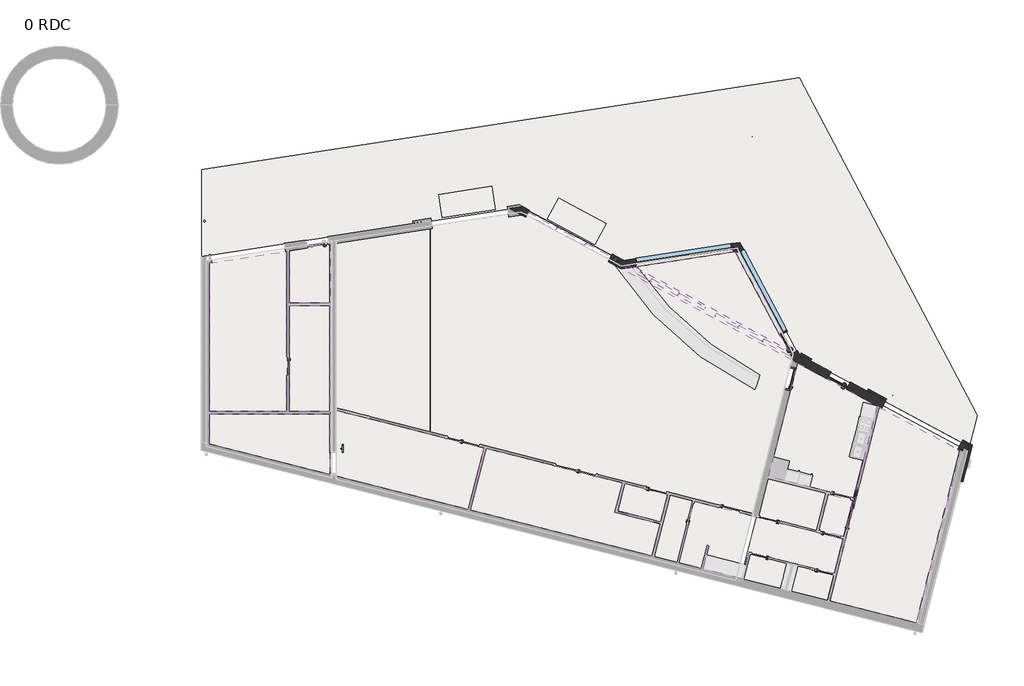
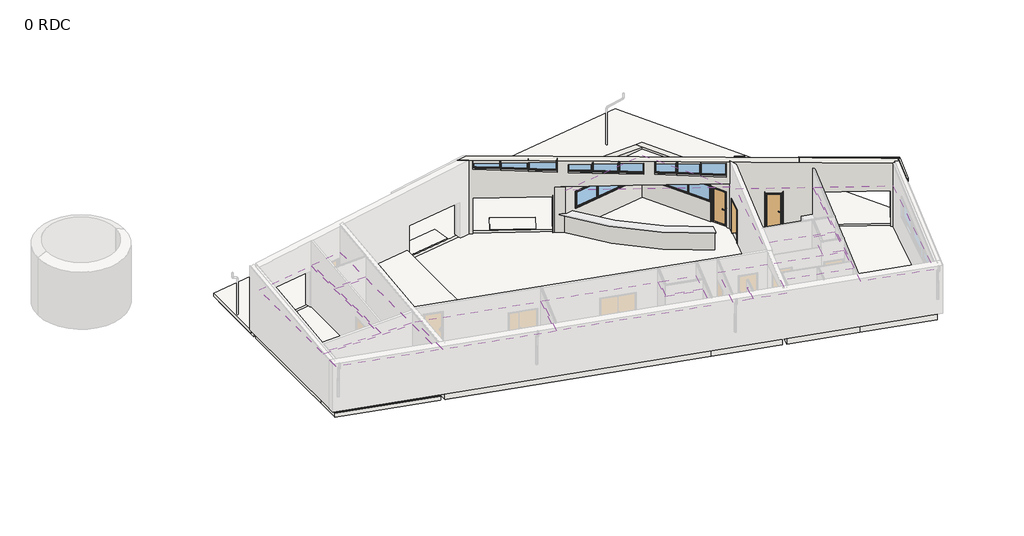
# One storey, part 3 of 4: 13 slabs, 12 coverings, 11 windows, 7 walls, 3 doors, 1 railing.
"""IFC4 building model written with IfcOpenShell, lengths in millimetres."""

from ifc_helpers import new_model, si_unit, point, frame, frame_2d, origin, place, context, project, spatial, polyline, circle_curve, trimmed, segment, composite_curve, outline, extrude, faceted_brep, transform, mapped, element, save
from components import door_be1b824a, int_simple_pp_0_93m_x_2_04m_1153bdb4, railing_3c3928af, window_9b9de55e, window_9c448f7a, fixed_trapezoidal_window_11265_81f1b40e, fixed_trapezoidal_window_11265_c27a5a7f, fixed_trapezoidal_window_11265_56658304, fixed_trapezoidal_window_11265_97f25e5e, fixed_trapezoidal_window_11265_f33cfe98, fixed_trapezoidal_window_11265_0d3202cf, fixed_trapezoidal_window_11265_bffe74e1, fixed_trapezoidal_window_11265_4c59b6dc, fixed_trapezoidal_window_11265_a913c717

model = new_model("IFC4")

# Units and contexts
model_context = context("Model", 3, world=origin())
ifc_project = project(units=[si_unit("LENGTHUNIT", "METRE", prefix="MILLI")], contexts=[model_context])

# Site, building, storey
site = spatial("IfcSite", under=ifc_project)
building = spatial("IfcBuilding", under=site)
storey = spatial("IfcBuildingStorey", under=building, Name="0 RDC", Elevation=870000.0)

# Coverings
placement = place(None, origin())
element("IfcCovering", 1, ObjectType="Plafond Placo non démontable", at=placement, inside=storey, context=model_context, shape_type="SweptSolid", body=[
    extrude(outline(polyline([(39030.2591474, -1188.091782), (38684.1366744, -2552.1774009), (30926.4820605, -589.8233287), (31594.2726668, 2041.9721585), (37412.8823258, 565.560754), (37092.6611617, -696.4465383), (39030.2591474, -1188.091782)])), frame((0.0, 0.0, 872515.0), z_axis=(0.0, 0.0, 1.0), x_axis=(1.0, 0.0, 0.0)), (0.0, 0.0, 1.0), 15.0),
    extrude(outline(polyline([(38684.1366744, -2552.1774009), (30926.4820605, -589.8233287), (31594.2726668, 2041.9721585), (37412.8823258, 565.560754), (37092.6611617, -696.4465383), (39030.2591474, -1188.091782), (38684.1366744, -2552.1774009)])), frame((0.0, 0.0, 872500.0), z_axis=(0.0, 0.0, 1.0), x_axis=(1.0, 0.0, 0.0)), (0.0, 0.0, 1.0), 15.0),
])
element("IfcCovering", 2, ObjectType="Plafond Rayonnant H Dalle 60 x 60", at=placement, inside=storey, context=model_context, shape_type="SweptSolid", body=[
    extrude(outline(polyline([(46449.2694121, -3383.1901153), (46179.0692598, -4448.0621495), (44432.0943018, -4006.1523722), (44702.6203023, -2939.9961538), (46449.2694121, -3383.1901153)])), frame((0.0, 0.0, 872506.5), z_axis=(0.0, 0.0, 1.0), x_axis=(1.0, 0.0, 0.0)), (0.0, 0.0, 1.0), 40.0),
    extrude(outline(polyline([(40413.7844589, -195.8868069), (39747.6391877, -2821.1979479), (38779.1441916, -2576.2102301), (39445.4701078, 49.8128421), (40413.7844589, -195.8868069)])), frame((0.0, 0.0, 872500.0), z_axis=(0.0, 0.0, 1.0), x_axis=(1.0, 0.0, 0.0)), (0.0, 0.0, 1.0), 6.5),
    extrude(outline(polyline([(42868.3913518, -2474.5797228), (44632.8318806, -2922.288071), (44361.9642795, -3989.7905539), (42597.5237507, -3542.0822057), (42868.3913518, -2474.5797228)])), frame((0.0, 0.0, 872506.5), z_axis=(0.0, 0.0, 1.0), x_axis=(1.0, 0.0, 0.0)), (0.0, 0.0, 1.0), 40.0),
    extrude(outline(polyline([(39445.4701078, 49.8128421), (40413.7844589, -195.8868069), (39747.6391877, -2821.1979479), (38779.1441916, -2576.2102301), (39445.4701078, 49.8128421)])), frame((0.0, 0.0, 872506.5), z_axis=(0.0, 0.0, 1.0), x_axis=(1.0, 0.0, 0.0)), (0.0, 0.0, 1.0), 40.0),
    extrude(outline(polyline([(44632.8318806, -2922.288071), (44361.9642795, -3989.7905539), (42597.5237507, -3542.0822057), (42868.3913518, -2474.5797228), (44632.8318806, -2922.288071)])), frame((0.0, 0.0, 872500.0), z_axis=(0.0, 0.0, 1.0), x_axis=(1.0, 0.0, 0.0)), (0.0, 0.0, 1.0), 6.5),
    extrude(outline(polyline([(46179.0692598, -4448.0621495), (44432.0943018, -4006.1523722), (44702.6203023, -2939.9961538), (46449.2694121, -3383.1901153), (46179.0692598, -4448.0621495)])), frame((0.0, 0.0, 872500.0), z_axis=(0.0, 0.0, 1.0), x_axis=(1.0, 0.0, 0.0)), (0.0, 0.0, 1.0), 6.5),
    extrude(outline(polyline([(46098.4873495, 113.4884436), (45698.5798126, -1462.5667464), (43230.4245873, -836.2981468), (43630.3321242, 739.7570432), (46098.4873495, 113.4884436)])), frame((0.0, 0.0, 872506.5), z_axis=(0.0, 0.0, 1.0), x_axis=(1.0, 0.0, 0.0)), (0.0, 0.0, 1.0), 40.0),
    extrude(outline(polyline([(39817.4406289, -2838.8547204), (40483.5728806, -213.5948897), (46844.0120914, -1827.4898817), (46466.9774949, -3313.4016936), (42816.3110129, -2387.0832183), (42527.7188828, -3524.4389379), (40856.7065307, -3101.7444436), (41104.7833717, -2124.0614625), (41034.99495, -2106.3533797), (40786.7242636, -3084.800315), (39817.4406289, -2838.8547204)])), frame((0.0, 0.0, 872506.5), z_axis=(0.0, 0.0, 1.0), x_axis=(1.0, 0.0, 0.0)), (0.0, 0.0, 1.0), 40.0),
    extrude(outline(polyline([(45698.5798126, -1462.5667464), (43230.4245873, -836.2981468), (43630.3321242, 739.7570432), (46098.4873495, 113.4884436), (45698.5798126, -1462.5667464)])), frame((0.0, 0.0, 872500.0), z_axis=(0.0, 0.0, 1.0), x_axis=(1.0, 0.0, 0.0)), (0.0, 0.0, 1.0), 6.5),
    extrude(outline(polyline([(40483.5728806, -213.5948897), (46844.0120914, -1827.4898817), (46466.9774949, -3313.4016936), (42816.3110129, -2387.0832183), (42527.7188828, -3524.4389379), (40856.7065307, -3101.7444436), (41104.7833717, -2124.0614625), (41034.99495, -2106.3533797), (40786.7242636, -3084.800315), (39817.4406289, -2838.8547204), (40483.5728806, -213.5948897)])), frame((0.0, 0.0, 872500.0), z_axis=(0.0, 0.0, 1.0), x_axis=(1.0, 0.0, 0.0)), (0.0, 0.0, 1.0), 6.5),
])
element("IfcCovering", 3, ObjectType="Plafond Dalle 60 x 60 \"Hygiène & Acoustique\"", at=placement, inside=storey, context=model_context, shape_type="SweptSolid", body=[
    extrude(outline(polyline([(43654.4347925, 834.7468394), (44884.524727, 5682.5915206), (48286.088666, 3855.804531), (47285.7303794, -86.6564737), (43654.4347925, 834.7468394)])), frame((0.0, 0.0, 872519.0), z_axis=(0.0, 0.0, 1.0), x_axis=(1.0, 0.0, 0.0)), (0.0, 0.0, 1.0), 1.0),
    extrude(outline(polyline([(43654.4347925, 834.7468394), (44884.524727, 5682.5915206), (48286.088666, 3855.804531), (47285.7303794, -86.6564737), (43654.4347925, 834.7468394)])), frame((0.0, 0.0, 872501.0), z_axis=(0.0, 0.0, 1.0), x_axis=(1.0, 0.0, 0.0)), (0.0, 0.0, 1.0), 18.0),
    extrude(outline(polyline([(44884.524727, 5682.5915206), (48286.088666, 3855.804531), (47285.7303794, -86.6564737), (43654.4347925, 834.7468394), (44884.524727, 5682.5915206)])), frame((0.0, 0.0, 872500.0), z_axis=(0.0, 0.0, 1.0), x_axis=(1.0, 0.0, 0.0)), (0.0, 0.0, 1.0), 1.0),
])
element("IfcCovering", 4, ObjectType="Plafond Rayonnant H Dalle 60 x 60", at=placement, inside=storey, context=model_context, shape_type="SweptSolid", body=[
    extrude(outline(polyline([(47261.6277111, -181.6462699), (46868.1147597, -1732.5000855), (45799.9641943, -1461.4680402), (46193.4771457, 89.3857753), (47261.6277111, -181.6462699)])), frame((0.0, 0.0, 872506.5), z_axis=(0.0, 0.0, 1.0), x_axis=(1.0, 0.0, 0.0)), (0.0, 0.0, 1.0), 40.0),
    extrude(outline(polyline([(46868.1147597, -1732.5000855), (45799.9641943, -1461.4680402), (46193.4771457, 89.3857753), (47261.6277111, -181.6462699), (46868.1147597, -1732.5000855)])), frame((0.0, 0.0, 872500.0), z_axis=(0.0, 0.0, 1.0), x_axis=(1.0, 0.0, 0.0)), (0.0, 0.0, 1.0), 6.5),
])
element("IfcCovering", 5, ObjectType="Plafond Placo non démontable", at=placement, inside=storey, context=model_context, shape_type="SweptSolid", body=[
    extrude(outline(polyline([(24925.5091129, 3610.3210603), (23184.6644129, 3610.3210603), (23184.6644129, 8145.3256655), (24925.5091129, 8145.3256655), (24925.5091129, 3610.3210603)])), frame((0.0, 0.0, 872515.0), z_axis=(0.0, 0.0, 1.0), x_axis=(1.0, 0.0, 0.0)), (0.0, 0.0, 1.0), 15.0),
    extrude(outline(polyline([(23184.6644129, 3610.3210603), (23184.6644129, 8145.3256655), (24925.5091129, 8145.3256655), (24925.5091129, 3610.3210603), (23184.6644129, 3610.3210603)])), frame((0.0, 0.0, 872500.0), z_axis=(0.0, 0.0, 1.0), x_axis=(1.0, 0.0, 0.0)), (0.0, 0.0, 1.0), 15.0),
])
element("IfcCovering", 6, ObjectType="Plafond Rayonnant H Dalle 60 x 60", at=placement, inside=storey, context=model_context, shape_type="SweptSolid", body=[
    extrude(outline(polyline([(24938.5091129, 8243.3256655), (23184.6644129, 8243.3256655), (23184.6644129, 10520.7743352), (24938.5091129, 10791.1015935), (24938.5091129, 8243.3256655)])), frame((0.0, 0.0, 872506.5), z_axis=(0.0, 0.0, 1.0), x_axis=(1.0, 0.0, 0.0)), (0.0, 0.0, 1.0), 40.0),
    extrude(outline(polyline([(23184.6644129, 8243.3256655), (23184.6644129, 10520.7743352), (24938.5091129, 10791.1015935), (24938.5091129, 8243.3256655), (23184.6644129, 8243.3256655)])), frame((0.0, 0.0, 872500.0), z_axis=(0.0, 0.0, 1.0), x_axis=(1.0, 0.0, 0.0)), (0.0, 0.0, 1.0), 6.5),
])
element("IfcCovering", 7, ObjectType="Plafond Rayonnant C Dalle 60x60cm", at=placement, inside=storey, context=model_context, shape_type="Brep", body=[
    faceted_brep([(51825.3271125, 1955.0829697, 873420.9719093), (49957.3626277, -5406.6565565, 872509.5681555), (46274.0848159, -4472.0632969, 872509.5681555), (48375.0500994, 3807.9437897, 873534.6559779), (49957.3626277, -5406.6565565, 872549.8551261), (51825.3271125, 1955.0829697, 873461.2588799), (48375.0500994, 3807.9437897, 873574.9429485), (46274.0848159, -4472.0632969, 872549.8551261)], [[[0, 1, 2, 3]], [[4, 5, 6, 7]], [[5, 4, 1, 0]], [[6, 5, 0, 3]], [[7, 6, 3, 2]], [[4, 7, 2, 1]]]),
    faceted_brep([(49957.3626277, -5406.6565565, 872500.0), (51825.3271125, 1955.0829697, 873411.4037538), (51825.3271125, 1955.0829697, 873420.9719093), (49957.3626277, -5406.6565565, 872509.5681555), (48375.0500994, 3807.9437897, 873525.0878224), (48375.0500994, 3807.9437897, 873534.6559779), (46274.0848159, -4472.0632969, 872500.0), (46274.0848159, -4472.0632969, 872509.5681555)], [[[0, 1, 2, 3]], [[1, 4, 5, 2]], [[4, 6, 7, 5]], [[6, 0, 3, 7]], [[3, 2, 5, 7]], [[0, 6, 4, 1]]]),
])
element("IfcCovering", 8, ObjectType="Plafond Rayonnant C Dalle 60x60cm", at=placement, inside=storey, context=model_context, shape_type="Brep", body=[
    faceted_brep([(19784.6644129, 9957.303638, 873271.2060648), (23086.6644129, 10466.2544059, 873332.280157), (23086.6644129, 3610.3210603, 872509.5681555), (19784.6644129, 3610.3210603, 872509.5681555), (23086.6644129, 10466.2544059, 873372.5671276), (19784.6644129, 9957.303638, 873311.4930354), (19784.6644129, 3610.3210603, 872549.8551261), (23086.6644129, 3610.3210603, 872549.8551261)], [[[0, 1, 2, 3]], [[4, 5, 6, 7]], [[5, 4, 1, 0]], [[6, 5, 0, 3]], [[7, 6, 3, 2]], [[4, 7, 2, 1]]]),
    faceted_brep([(23086.6644129, 10466.2544059, 873322.7120015), (19784.6644129, 9957.303638, 873261.6379093), (19784.6644129, 9957.303638, 873271.2060648), (23086.6644129, 10466.2544059, 873332.280157), (19784.6644129, 3610.3210603, 872500.0), (19784.6644129, 3610.3210603, 872509.5681555), (23086.6644129, 3610.3210603, 872500.0), (23086.6644129, 3610.3210603, 872509.5681555)], [[[0, 1, 2, 3]], [[1, 4, 5, 2]], [[4, 6, 7, 5]], [[6, 0, 3, 7]], [[3, 2, 5, 7]], [[0, 6, 4, 1]]]),
])
element("IfcCovering", 9, ObjectType="Plafond Placo non démontable", at=placement, inside=storey, context=model_context, shape_type="SweptSolid", body=[
    extrude(outline(polyline([(19784.6644129, 3512.3210603), (24925.5091129, 3512.3210603), (24925.5091129, 928.1655852), (19784.6644129, 2228.5789232), (19784.6644129, 3512.3210603)])), frame((0.0, 0.0, 872515.0), z_axis=(0.0, 0.0, 1.0), x_axis=(1.0, 0.0, 0.0)), (0.0, 0.0, 1.0), 15.0),
    extrude(outline(polyline([(24925.5091129, 3512.3210603), (24925.5091129, 928.1655852), (19784.6644129, 2228.5789232), (19784.6644129, 3512.3210603), (24925.5091129, 3512.3210603)])), frame((0.0, 0.0, 872500.0), z_axis=(0.0, 0.0, 1.0), x_axis=(1.0, 0.0, 0.0)), (0.0, 0.0, 1.0), 15.0),
])
element("IfcCovering", 10, ObjectType="Plafond Placo non démontable", at=placement, inside=storey, context=model_context, shape_type="Brep", body=[
    faceted_brep([(25196.5091129, 3665.3378125, 872816.1962431), (31499.2828706, 2066.0748268, 872816.1962431), (30831.4745434, -565.7904995, 872490.3640224), (25196.5091129, 859.614202, 872489.8512056), (31499.2828706, 2066.0748268, 872831.303857), (25196.5091129, 3665.3378125, 872831.303857), (25196.5091129, 859.614202, 872504.9588195), (30831.4745434, -565.7904995, 872505.4716364)], [[[0, 1, 2, 3]], [[4, 5, 6, 7]], [[5, 4, 1, 0]], [[6, 5, 0, 3]], [[7, 6, 3, 2]], [[4, 7, 2, 1]]]),
    faceted_brep([(31499.2828706, 2066.0748268, 872801.0886291), (25196.5091129, 3665.3378125, 872801.0886291), (25196.5091129, 3665.3378125, 872816.1962431), (31499.2828706, 2066.0748268, 872816.1962431), (25196.5091129, 859.614202, 872474.7435916), (25196.5091129, 859.614202, 872489.8512056), (30831.4745434, -565.7904995, 872475.2564084), (30831.4745434, -565.7904995, 872490.3640224)], [[[0, 1, 2, 3]], [[1, 4, 5, 2]], [[4, 6, 7, 5]], [[6, 0, 3, 7]], [[3, 2, 5, 7]], [[0, 6, 4, 1]]]),
])
element("IfcCovering", 11, ObjectType="Plafond Placo non démontable", at=placement, inside=storey, context=model_context, shape_type="SweptSolid", body=[
    extrude(outline(polyline([(37211.7536261, -625.5594104), (37507.872122, 541.4580858), (39350.4803116, 73.9155104), (39054.3618157, -1093.1019858), (37211.7536261, -625.5594104)])), frame((0.0, 0.0, 872515.0), z_axis=(0.0, 0.0, 1.0), x_axis=(1.0, 0.0, 0.0)), (0.0, 0.0, 1.0), 15.0),
    extrude(outline(polyline([(37507.872122, 541.4580858), (39350.4803116, 73.9155104), (39054.3618157, -1093.1019858), (37211.7536261, -625.5594104), (37507.872122, 541.4580858)])), frame((0.0, 0.0, 872500.0), z_axis=(0.0, 0.0, 1.0), x_axis=(1.0, 0.0, 0.0)), (0.0, 0.0, 1.0), 15.0),
])
element("IfcCovering", 12, ObjectType="Plafond Dalle 60x60 + Iso 200mm", at=placement, inside=storey, context=model_context, shape_type="SweptSolid", body=[
    extrude(outline(polyline([(42234.079628, 10455.0834688), (44658.7540013, 5894.9342051), (44638.4118482, 5814.7647835), (37388.5963927, 9708.2293157), (42234.079628, 10455.0834688)])), frame((0.0, 0.0, 872582.5), z_axis=(0.0, 0.0, 1.0), x_axis=(1.0, 0.0, 0.0)), (0.0, 0.0, 1.0), 220.0),
])

# Doors
door_shape = door_be1b824a(model_context)
element("IfcDoor", 13, ObjectType="Porte Ext vitrée : Menuiserie 3", at=placement, inside=storey, context=model_context, shape_type="MappedRepresentation", body=[
    mapped(door_shape, transform((44513.1340651, 6545.8251138, 870000.0), x_axis=(0.4694715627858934, -0.8829475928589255, 0.0), y_axis=(0.8829475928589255, 0.4694715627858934, 0.0), z_axis=(0.0, 0.0, 1.0))),
])
element("IfcDoor", 14, ObjectType="Porte Ext vitrée : Menuiserie 3", at=placement, inside=storey, context=model_context, shape_type="MappedRepresentation", body=[
    mapped(door_shape, transform((46655.5662983, 4932.3754308, 870000.0), x_axis=(0.8809921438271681, -0.47313089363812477, 0.0), y_axis=(0.47313089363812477, 0.8809921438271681, 0.0), z_axis=(0.0, 0.0, 1.0))),
])
int_simple_pp_0_93m_x_2_04m_shape = int_simple_pp_0_93m_x_2_04m_1153bdb4(model_context)
element("IfcDoor", 15, ObjectType="Int. Simple : PP (0.93m x 2.04m)", at=placement, inside=storey, context=model_context, shape_type="MappedRepresentation", body=[
    mapped(int_simple_pp_0_93m_x_2_04m_shape, transform((44584.3521007, 5050.5313512, 870000.0), x_axis=(0.24594559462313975, 0.9692836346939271, 0.0), y_axis=(-0.9692836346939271, 0.24594559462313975, 0.0), z_axis=(0.0, 0.0, 1.0))),
])

# Railing
railing_shape = railing_3c3928af(model_context)
element("IfcRailing", 16, ObjectType="Fixé au mur", at=placement, inside=storey, context=model_context, shape_type="MappedRepresentation", body=[
    mapped(railing_shape, transform((0.0, 0.0, 0.0), x_axis=(1.0, 0.0, 0.0), y_axis=(0.0, 1.0, 0.0), z_axis=(0.0, 0.0, 1.0))),
])

# Slabs
element("IfcSlab", 17, ObjectType="Dallage Terrasse", at=placement, inside=storey, context=model_context, shape_type="SweptSolid", body=[
    extrude(outline(polyline([(52570.9656414, 3454.3381962), (52231.1524024, 2115.1175773), (44973.1281298, 6012.9905995), (42417.0778005, 10820.2221006), (37426.7227763, 10051.038266), (33140.6442957, 12352.8478292), (19451.6644129, 10242.9093606), (19451.6644129, 13942.3479728), (44960.4575686, 17870.5636973), (52570.9656414, 3454.3381962)])), frame((0.0, 0.0, 869800.0), z_axis=(0.0, 0.0, 1.0), x_axis=(1.0, 0.0, 0.0)), (0.0, 0.0, 1.0), 180.0),
])
element("IfcSlab", 18, ObjectType="Paillasson", at=placement, inside=storey, context=model_context, shape_type="SweptSolid", body=[
    extrude(outline(polyline([(34210.9115528, 11831.6039378), (34691.6125407, 12726.6919559), (36717.8944715, 11638.4909005), (36237.1934836, 10743.4028824), (34210.9115528, 11831.6039378)])), frame((0.0, 0.0, 869950.0), z_axis=(0.0, 0.0, 1.0), x_axis=(1.0, 0.0, 0.0)), (0.0, 0.0, 1.0), 50.0),
])
element("IfcSlab", 19, ObjectType="Paillasson", at=placement, inside=storey, context=model_context, shape_type="SweptSolid", body=[
    extrude(outline(polyline([(29721.1180234, 11902.6339751), (29568.7828485, 12890.9628649), (31841.9392952, 13241.3337671), (31994.27447, 12253.0048773), (29721.1180234, 11902.6339751)])), frame((0.0, 0.0, 869950.0), z_axis=(0.0, 0.0, 1.0), x_axis=(1.0, 0.0, 0.0)), (0.0, 0.0, 1.0), 50.0),
])
element("IfcSlab", 20, ObjectType="Scène", at=placement, inside=storey, context=model_context, shape_type="SweptSolid", body=[
    extrude(outline(polyline([(25190.7099783, 10830.8681889), (29196.5091129, 11448.1846708), (29196.5091129, 2750.0137336), (25190.7099783, 3743.3256655), (25190.7099783, 10830.8681889)])), frame((0.0, 0.0, 870700.0), z_axis=(0.0, 0.0, 1.0), x_axis=(1.0, 0.0, 0.0)), (0.0, 0.0, 1.0), 50.0),
])
element("IfcSlab", 21, ObjectType="Plancher haut RDC étanche", at=placement, inside=storey, context=model_context, shape_type="SweptSolid", body=[
    extrude(outline(polyline([(37726.1280859, 9904.9431339), (42302.1966134, 10610.2712959), (44670.8362453, 6155.5080533), (37726.1280859, 9904.9431339)])), frame((0.0, 0.0, 872802.1), z_axis=(0.0, 0.0, 1.0), x_axis=(1.0, 0.0, 0.0)), (0.0, 0.0, 1.0), 150.0),
])
element("IfcSlab", 22, ObjectType="Dallage sur terre plein finition carrelage 45x45", at=placement, inside=storey, context=model_context, shape_type="SweptSolid", body=[
    extrude(outline(polyline([(24996.5091129, 3512.3210603), (19651.6644129, 3512.3210603), (19651.6644129, 10071.3743921), (23184.6644129, 10615.9301349), (23184.6644129, 8243.3256655), (24996.5091129, 8243.3256655), (24996.5091129, 3512.3210603)])), frame((0.0, 0.0, 869500.0), z_axis=(0.0, 0.0, 1.0), x_axis=(1.0, 0.0, 0.0)), (0.0, 0.0, 1.0), 500.0),
])
element("IfcSlab", 23, ObjectType="Hérisson terrasse", at=placement, inside=storey, context=model_context, shape_type="SweptSolid", body=[
    extrude(outline(polyline([(19651.6644129, 13770.7893496), (44850.657801, 17651.297591), (44851.6558194, 17651.4512804), (52358.0938115, 3428.5878846), (52357.7596696, 3427.2710149), (52049.5598954, 2212.6406094), (44973.1281298, 6012.9905995), (42417.0778005, 10820.2221006), (37405.3113678, 10047.7380381), (33085.7242778, 12359.6725968), (19651.6644129, 10273.7361788), (19651.6644129, 13770.7893496)])), frame((0.0, 0.0, 869500.0), z_axis=(0.0, 0.0, 1.0), x_axis=(1.0, 0.0, 0.0)), (0.0, 0.0, 1.0), 300.0),
])
element("IfcSlab", 24, ObjectType="Dallage sur terre plein finition quartz", at=placement, inside=storey, context=model_context, shape_type="SweptSolid", body=[
    extrude(outline(polyline([(25196.5091129, 10926.0239887), (33072.3886421, 12139.9655194), (37369.7958563, 9839.9021003), (42307.1689882, 10600.919619), (44707.4579944, 6086.6325606), (42974.1433078, -744.4455162), (39374.5829799, 168.9053066), (38651.4259015, -2681.0921591), (25196.5091129, 722.4250204), (25196.5091129, 10926.0239887)])), frame((0.0, 0.0, 869500.0), z_axis=(0.0, 0.0, 1.0), x_axis=(1.0, 0.0, 0.0)), (0.0, 0.0, 1.0), 500.0),
])
element("IfcSlab", 25, ObjectType="Dallage sur terre plein finition Carrelage 30x30", at=placement, inside=storey, context=model_context, shape_type="SweptSolid", body=[
    extrude(outline(polyline([(42445.5530811, -3640.8334642), (44853.771548, 5850.073467), (48319.8008253, 3988.665802), (46145.6678061, -4579.6989146), (42445.5530811, -3640.8334642)])), frame((0.0, 0.0, 869500.0), z_axis=(0.0, 0.0, 1.0), x_axis=(1.0, 0.0, 0.0)), (0.0, 0.0, 1.0), 500.0),
])
element("IfcSlab", 26, ObjectType="Dallage sur terre plein finition carrelage 45x45", at=placement, inside=storey, context=model_context, shape_type="SweptSolid", body=[
    extrude(outline(polyline([(50054.2668873, -5565.5221263), (46146.3554911, -4576.9880624), (48319.8006797, 3988.6658802), (51979.7977063, 2023.0891426), (50054.2668873, -5565.5221263)])), frame((0.0, 0.0, 869500.0), z_axis=(0.0, 0.0, 1.0), x_axis=(1.0, 0.0, 0.0)), (0.0, 0.0, 1.0), 500.0),
])
element("IfcSlab", 27, ObjectType="Dallage sur terre plein finition Carrelage 30x30", at=placement, inside=storey, context=model_context, shape_type="SweptSolid", body=[
    extrude(outline(polyline([(23184.6644129, 10615.9301349), (24996.5091129, 10895.1971705), (24996.5091129, 8243.3256655), (23184.6644129, 8243.3256655), (23184.6644129, 10615.9301349)])), frame((0.0, 0.0, 869500.0), z_axis=(0.0, 0.0, 1.0), x_axis=(1.0, 0.0, 0.0)), (0.0, 0.0, 1.0), 500.0),
])
element("IfcSlab", 28, ObjectType="Dallage sur terre plein finition quartz", at=placement, inside=storey, context=model_context, shape_type="SweptSolid", body=[
    extrude(outline(polyline([(24925.5091129, 3513.0164471), (24925.5091129, 928.1655852), (19784.6644129, 2228.5789232), (19784.6644129, 3513.0164471), (24925.5091129, 3513.0164471)])), frame((0.0, 0.0, 869990.0), z_axis=(0.0, 0.0, 1.0), x_axis=(1.0, 0.0, 0.0)), (0.0, 0.0, 1.0), 10.0),
    extrude(outline(polyline([(24996.5091129, 3513.0164471), (24996.5091129, 773.0164471), (19651.6644129, 2125.0330403), (19651.6644129, 3513.0164471), (24996.5091129, 3513.0164471)])), frame((0.0, 0.0, 869870.0), z_axis=(0.0, 0.0, 1.0), x_axis=(1.0, 0.0, 0.0)), (0.0, 0.0, 1.0), 120.0),
    extrude(outline(polyline([(24996.5091129, 3513.0164471), (24996.5091129, 773.0164471), (19651.6644129, 2125.0330403), (19651.6644129, 3513.0164471), (24996.5091129, 3513.0164471)])), frame((0.0, 0.0, 869790.0), z_axis=(0.0, 0.0, 1.0), x_axis=(1.0, 0.0, 0.0)), (0.0, 0.0, 1.0), 80.0),
    extrude(outline(polyline([(24996.5091129, 3513.0164471), (24996.5091129, 773.0164471), (19651.6644129, 2125.0330403), (19651.6644129, 3513.0164471), (24996.5091129, 3513.0164471)])), frame((0.0, 0.0, 869750.0), z_axis=(0.0, 0.0, 1.0), x_axis=(1.0, 0.0, 0.0)), (0.0, 0.0, 1.0), 40.0),
    extrude(outline(polyline([(24996.5091129, 3513.0164471), (24996.5091129, 773.0164471), (19651.6644129, 2125.0330403), (19651.6644129, 3513.0164471), (24996.5091129, 3513.0164471)])), frame((0.0, 0.0, 869500.0), z_axis=(0.0, 0.0, 1.0), x_axis=(1.0, 0.0, 0.0)), (0.0, 0.0, 1.0), 250.0),
])
element("IfcSlab", 29, ObjectType="Dallage sur terre plein finition Carrelage 30x30", at=placement, inside=storey, context=model_context, shape_type="SweptSolid", body=[
    extrude(outline(polyline([(42974.1433078, -744.4455162), (42250.9862294, -3594.4429819), (38651.4259015, -2681.0921591), (39374.5829799, 168.9053066), (42974.1433078, -744.4455162)])), frame((0.0, 0.0, 869500.0), z_axis=(0.0, 0.0, 1.0), x_axis=(1.0, 0.0, 0.0)), (0.0, 0.0, 1.0), 500.0),
])

# Walls
element("IfcWall", 30, ObjectType="Int. Plâtre 7cm", at=placement, inside=storey, context=model_context, shape_type="SweptSolid", body=[
    extrude(outline(composite_curve([segment(polyline([(43111.1233529, 4708.2192393), (43079.9528617, 4645.5422859)]), True, "CONTINUOUS"), segment(trimmed(circle_curve(frame_2d((49690.3399138, 17937.5664064)), 14845.0369551), [point((43079.9528617, 4645.5422859))], [point((37271.5496908, 9804.3768971))], False, "CARTESIAN"), True, "CONTINUOUS"), segment(polyline([(37271.5496908, 9804.3768971), (37330.1090139, 9842.7279816)]), True, "CONTINUOUS"), segment(trimmed(circle_curve(frame_2d((49690.3399138, 17937.5664064)), 14775.0369551), [point((37330.1090139, 9842.7279816))], [point((43111.1233529, 4708.2192393))], True, "CARTESIAN"), True, "CONTINUOUS")], self_intersect=False)), frame((0.0, 0.0, 870000.0), z_axis=(0.0, 0.0, 1.0), x_axis=(1.0, 0.0, 0.0)), (0.0, 0.0, 1.0), 1100.0941287),
])
element("IfcWall", 31, ObjectType="Mur exterieur doublé", at=placement, inside=storey, context=model_context, shape_type="Brep", body=[
    faceted_brep([(37388.5963927, 9708.2293157, 870000.0), (42234.079628, 10455.0834688, 870000.0), (42234.079628, 10455.0834688, 873077.484306), (37969.9518152, 9797.8360052, 873484.6884032), (37969.9518152, 9797.8360052, 872802.1169899), (37388.5963927, 9708.2293157, 872802.1169899), (42097.0966106, 10433.969716, 871200.0), (38044.9481623, 9809.395499, 871200.0), (37995.5317178, 9801.7787402, 871200.0), (37995.5317178, 9801.7787402, 872250.0), (42146.5130551, 10441.5864747, 872250.0), (42146.5130551, 10441.5864747, 871200.0), (42058.0575603, 10786.1328299, 870000.0), (37451.7340789, 10076.141348, 870000.0), (36870.3786565, 9986.5346586, 870000.0), (36870.3786565, 9986.5346586, 872802.1169899), (37451.7340789, 10076.141348, 872802.1169899), (37451.7340789, 10076.141348, 873517.3264629), (42058.0575603, 10786.1328299, 873077.4442931), (42058.0575603, 10786.1328299, 873067.8581605), (37991.0215104, 10159.263926, 872200.0), (37991.0215104, 10159.263926, 871120.0), (42043.1699587, 10783.838143, 871120.0), (42043.1699587, 10783.838143, 872200.0), (38026.6679413, 9927.9949658, 871200.0), (38026.6679413, 9927.9949658, 871120.0), (38023.6212378, 9947.7615436, 872200.0), (38023.6212378, 9947.7615436, 871200.0), (42078.8163896, 10552.5691827, 871120.0), (42078.8163896, 10552.5691827, 871200.0), (42075.7696861, 10572.3357605, 871200.0), (42075.7696861, 10572.3357605, 872200.0), (38013.7379489, 9946.2381918, 871200.0), (38027.4481146, 9857.2885917, 871200.0), (37987.914959, 9851.1951847, 871200.0), (42138.8962964, 10491.0029192, 871200.0), (42099.3631408, 10484.9095122, 871200.0), (42085.652975, 10573.8591123, 871200.0), (37987.914959, 9851.1951847, 872250.0), (42138.8962964, 10491.0029192, 872250.0), (38027.4481146, 9857.2885917, 872210.0), (42099.3631408, 10484.9095122, 872210.0), (38013.7379489, 9946.2381918, 872210.0), (42085.652975, 10573.8591123, 872210.0)], [[[0, 1, 2, 3, 4, 5], [6, 7, 8, 9, 10, 11]], [[12, 13, 14, 15, 16, 17, 18, 19], [20, 21, 22, 23]], [[1, 0, 14, 13, 12]], [[3, 2, 18, 17]], [[24, 25, 21, 20, 26, 27]], [[28, 29, 30, 31, 23, 22]], [[24, 27, 32, 33, 34, 8, 7, 6, 11, 35, 36, 37, 30, 29]], [[31, 26, 20, 23]], [[25, 28, 22, 21]], [[25, 24, 29, 28]], [[8, 34, 38, 9]], [[36, 35, 39, 38, 34, 33, 40, 41]], [[33, 32, 42, 40]], [[27, 26, 31, 30, 37, 43, 42, 32]], [[9, 38, 39, 10]], [[41, 40, 42, 43]], [[35, 11, 10, 39]], [[37, 36, 41, 43]], [[2, 1, 12, 19, 18]], [[14, 0, 5, 15]], [[3, 17, 16, 4]], [[16, 15, 5, 4]]]),
])
element("IfcWall", 32, ObjectType="Mur exterieur doublé", at=placement, inside=storey, context=model_context, shape_type="Brep", body=[
    faceted_brep([(44848.0632907, 5538.8952143, 873067.8581605), (42058.0575603, 10786.1328299, 873067.8581605), (42058.0575603, 10786.1328299, 870000.0), (42234.079628, 10455.0834688, 870000.0), (44138.5480644, 6873.2992779, 870000.0), (44138.5480644, 6873.2992779, 872200.0), (44575.1566178, 6052.1580166, 872200.0), (44575.1566178, 6052.1580166, 870000.0), (44658.7963366, 5894.8545839, 870000.0), (44726.5482831, 5767.4317051, 870000.0), (44726.5482831, 5767.4317051, 872802.1169899), (44427.5048033, 6329.8506918, 872802.1169899), (44427.5048033, 6329.8506918, 872910.0), (44726.5482831, 5767.4317051, 872910.0), (44848.0632907, 5538.8952143, 872910.0), (44110.3797707, 6926.2761335, 871200.0), (42279.4406758, 10369.7717456, 871200.0), (42255.9670977, 10413.9191253, 871200.0), (42255.9670977, 10413.9191253, 872250.0), (44133.8533488, 6882.1287538, 872250.0), (44133.8533488, 6882.1287538, 871200.0), (42428.6182258, 10843.2488612, 873067.8581605), (44977.5837933, 6049.341859, 873067.8581605), (44977.5837933, 6049.341859, 872910.0), (44988.6782102, 6028.4762955, 872910.0), (44988.6782102, 6028.4762955, 872802.1169899), (45287.72169, 5466.0573088, 872802.1169899), (45287.72169, 5466.0573088, 870000.0), (44988.6782102, 6028.4762955, 870000.0), (44887.7200657, 6218.3509498, 870000.0), (44887.7200657, 6218.3509498, 872200.0), (44451.1115123, 7039.4922111, 872200.0), (44451.1115123, 7039.4922111, 870000.0), (42428.6182258, 10843.2488612, 870000.0), (44422.9432186, 7092.4690667, 871120.0), (44422.9432186, 7092.4690667, 872200.0), (42592.0041237, 10535.9646789, 872200.0), (42592.0041237, 10535.9646789, 871120.0), (44884.524727, 5682.5915206, 870000.0), (44216.3334818, 6982.612721, 871200.0), (44233.9924337, 6992.0021523, 871200.0), (44233.9924337, 6992.0021523, 872200.0), (44216.3334818, 6982.612721, 871120.0), (42403.0533388, 10435.4977644, 872200.0), (42403.0533388, 10435.4977644, 871200.0), (42385.394387, 10426.1083332, 871200.0), (42385.394387, 10426.1083332, 871120.0), (42398.3586232, 10444.3272404, 871200.0), (42318.8933398, 10402.0747997, 871200.0), (42300.1144773, 10437.3927034, 871200.0), (44178.0007285, 6905.602332, 871200.0), (44159.221866, 6940.9202357, 871200.0), (44238.6871493, 6983.1726763, 871200.0), (44178.0007285, 6905.602332, 872250.0), (42300.1144773, 10437.3927034, 872250.0), (42318.8933398, 10402.0747997, 872210.0), (44159.221866, 6940.9202357, 872210.0), (44238.6871493, 6983.1726763, 872210.0), (42398.3586232, 10444.3272404, 872210.0), (44974.2548352, 6036.2222719, 872910.0), (44884.524727, 5682.5915206, 872910.0)], [[[0, 1, 2, 3, 4, 5, 6, 7, 8, 9, 10, 11, 12, 13, 14], [15, 16, 17, 18, 19, 20]], [[21, 22, 23, 24, 25, 26, 27, 28, 29, 30, 31, 32, 33], [34, 35, 36, 37]], [[2, 33, 32, 4, 3]], [[7, 29, 28, 27, 38, 9, 8]], [[1, 0, 22, 21]], [[39, 40, 41, 35, 34, 42]], [[43, 44, 45, 46, 37, 36]], [[40, 39, 45, 44, 47, 48, 49, 17, 16, 15, 20, 50, 51, 52]], [[41, 43, 36, 35]], [[46, 42, 34, 37]], [[39, 42, 46, 45]], [[50, 20, 19, 53]], [[51, 50, 53, 54, 49, 48, 55, 56]], [[52, 51, 56, 57]], [[41, 40, 52, 57, 58, 47, 44, 43]], [[53, 19, 18, 54]], [[56, 55, 58, 57]], [[17, 49, 54, 18]], [[48, 47, 58, 55]], [[2, 1, 21, 33]], [[31, 5, 4, 32]], [[7, 6, 30, 29]], [[5, 31, 30, 6]], [[11, 10, 26, 25]], [[24, 23, 59]], [[9, 38, 27, 26, 10]], [[12, 11, 25, 24, 59]], [[22, 0, 14, 60, 59, 23]], [[14, 13, 12, 59, 60]]]),
])
element("IfcWall", 33, ObjectType="Mur pierre 10 cm", at=placement, inside=storey, context=model_context, shape_type="Brep", body=[
    faceted_brep([(47908.7723828, 4573.7677895, 869980.0), (47908.7723828, 4573.7677895, 874068.8866528), (52352.6191093, 2187.2298531, 873922.452136), (52352.6191093, 2187.2298531, 869980.0), (51949.8105536, 2403.5554733, 869980.0), (51949.8105536, 2403.5554733, 870000.0), (51949.8105536, 2403.5554733, 872200.0), (48690.1396215, 4154.1397797, 872200.0), (48690.1396215, 4154.1397797, 870000.0), (48690.1396215, 4154.1397797, 869980.0), (47861.4592934, 4485.6685751, 874068.8866528), (47861.4592934, 4485.6685751, 869980.0), (48642.8265321, 4066.0405654, 869980.0), (48642.8265321, 4066.0405654, 870000.0), (48642.8265321, 4066.0405654, 872200.0), (51902.4974643, 2315.4562589, 872200.0), (51902.4974643, 2315.4562589, 870000.0), (51902.4974643, 2315.4562589, 869980.0), (52236.47537, 2136.0956754, 869980.0), (52327.2716211, 2087.3341606, 869980.0), (52327.2716211, 2087.3341606, 873921.3272441), (52327.2716211, 2087.3341606, 873921.7283212)], [[[0, 1, 2, 3, 4, 5, 6, 7, 8, 9]], [[10, 11, 12, 13, 14, 15, 16, 17, 18, 19, 20, 21]], [[3, 2, 21, 20, 19]], [[1, 0, 11, 10]], [[2, 1, 10, 21]], [[7, 6, 15, 14]], [[7, 14, 13, 12, 9, 8]], [[0, 9, 12, 11]], [[4, 3, 19, 18, 17]], [[4, 17, 16, 15, 6, 5]]]),
])
element("IfcWall", 34, ObjectType="Mur pierre 10 cm", at=placement, inside=storey, context=model_context, shape_type="Brep", body=[
    faceted_brep([(52236.47537, 2136.0956754, 869980.0), (51853.1851107, 625.52999, 869980.0), (51853.1851107, 625.52999, 873736.9068071), (52236.47537, 2136.0956754, 873924.3256861), (52327.2716211, 2087.3341606, 869980.0), (52327.2716211, 2087.3341606, 873921.3272441), (51950.1134742, 600.9354306, 873736.9068071), (51950.1134742, 600.9354306, 869980.0)], [[[0, 1, 2, 3]], [[4, 5, 6, 7]], [[0, 3, 5, 4]], [[1, 0, 4, 7]], [[2, 1, 7, 6]], [[3, 2, 6, 5]]]),
])
element("IfcWall", 35, ObjectType="Mur pierre 10 cm", at=placement, inside=storey, context=model_context, shape_type="SweptSolid", body=[
    extrude(outline(polyline([(0.0, 0.0), (513.0701375, 0.0), (513.0701375, -4167.7594745), (0.0, -4182.6542226), (0.0, 0.0)])), frame((45006.9453977, 6018.6660256, 869980.0), z_axis=(0.47313089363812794, 0.8809921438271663, 0.0), x_axis=(0.8809921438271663, -0.47313089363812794, 0.0)), (0.0, 0.0, 1.0), 100.0),
])
element("IfcWall", 36, ObjectType="Mur exterieur doublé", at=placement, inside=storey, context=model_context, shape_type="Brep", body=[
    faceted_brep([(40503.4819787, 8437.2207049, 872802.1169899), (37969.9518152, 9797.8360052, 872802.1169899), (37451.7340789, 10076.141348, 872802.1169899), (37451.7340789, 10076.141348, 870000.0), (36969.1191408, 10335.3264482, 870000.0), (36969.1191408, 10335.3264482, 872200.0), (33445.1505654, 12227.8500227, 872200.0), (33445.1505654, 12227.8500227, 870000.0), (33165.6555984, 12377.9509112, 870000.0), (33165.6555984, 12377.9509112, 874554.4651736), (52236.47537, 2136.0956754, 873926.0397464), (52236.47537, 2136.0956754, 870000.0), (51902.4974643, 2315.4562589, 870000.0), (51902.4974643, 2315.4562589, 872200.0), (48642.8265321, 4066.0405654, 872200.0), (48642.8265321, 4066.0405654, 870000.0), (47148.9718133, 4868.3051747, 870000.0), (47148.9718133, 4868.3051747, 872200.0), (46329.6491196, 5308.3169058, 872200.0), (46329.6491196, 5308.3169058, 870000.0), (44988.6782102, 6028.4762955, 870000.0), (44988.6782102, 6028.4762955, 872802.1169899), (44427.5048033, 6329.8506918, 872802.1169899), (37172.8024526, 10225.9396982, 873705.0), (37172.8024526, 10225.9396982, 874305.0), (35895.363844, 10911.979494, 874305.0), (35895.3650969, 10911.9788211, 874307.5), (33441.8032116, 12229.6476965, 874307.5), (33441.8032116, 12229.6476965, 873955.870891), (34675.1922129, 11567.2644454, 873882.5), (34675.1922129, 11567.2644454, 873884.3485365), (35895.363844, 10911.979494, 873787.5000994), (35895.363844, 10911.979494, 873780.99128), (41004.8569578, 8167.9606513, 873465.0), (41004.8569578, 8167.9606513, 874135.0), (38723.071666, 9393.3780647, 874135.0), (38723.071666, 9393.3780647, 874140.0), (37665.8810934, 9961.1351371, 874140.0), (37665.8810934, 9961.1351371, 873652.8893351), (38723.071666, 9393.3780647, 873590.0), (38723.071666, 9393.3780647, 873594.178202), (39885.9801754, 8768.8458869, 873525.0), (39885.9801754, 8768.8458869, 873531.5578425), (42445.2775954, 7394.3924552, 873391.9120938), (43502.4671533, 6826.6359277, 873308.0), (43502.4481437, 6826.6461367, 873305.9048555), (44647.7379307, 6211.575975, 873215.0), (44647.7379307, 6211.575975, 874065.0), (43502.4671533, 6826.6359277, 874065.0), (43502.4671533, 6826.6359277, 874067.0), (42445.2765807, 7394.3930001, 874067.0), (42445.2765807, 7394.3930001, 874065.0), (41476.1862372, 7914.8364382, 874065.0), (41476.1862372, 7914.8364382, 873457.2788822), (42445.2775954, 7394.3924552, 873390.0), (36870.3786565, 9986.5346586, 872802.1169899), (37388.5963927, 9708.2293157, 872802.1169899), (40335.9936424, 8125.349486, 872802.1169899), (44726.5482831, 5767.4317051, 872802.1169899), (45287.72169, 5466.0573088, 872802.1169899), (45287.72169, 5466.0573088, 870000.0), (46162.1607832, 4996.4456868, 870000.0), (46162.1607832, 4996.4456868, 872200.0), (46981.483477, 4556.4339558, 872200.0), (46981.483477, 4556.4339558, 870000.0), (48286.088666, 3855.804531, 870000.0), (48375.0689921, 3808.0182465, 870000.0), (48475.3381958, 3754.1693464, 870000.0), (48475.3381958, 3754.1693464, 872200.0), (51735.0091279, 2003.58504, 872200.0), (51735.0091279, 2003.58504, 870000.0), (51825.326533, 1955.0806862, 870000.0), (52146.7452619, 1782.464924, 870000.0), (52146.7452619, 1782.464924, 873882.2592794), (51825.326533, 1955.0806862, 873892.850733), (33102.5179122, 12010.0388789, 874509.8084279), (32584.300176, 12288.3442217, 874526.8848413), (32584.300176, 12288.3442217, 870000.0), (33102.5179122, 12010.0388789, 870000.0), (33277.6622291, 11915.9788038, 870000.0), (33277.6622291, 11915.9788038, 872200.0), (36801.6308044, 10023.4552292, 872200.0), (36801.6308044, 10023.4552292, 870000.0), (36870.3786565, 9986.5346586, 870000.0), (37005.3141162, 9914.0684793, 874305.0), (37005.3141162, 9914.0684793, 873705.0), (35727.8755077, 10600.1082751, 873780.99128), (35727.8755077, 10600.1082751, 873787.5000994), (34507.7038766, 11255.3932265, 873884.3485365), (34507.7038766, 11255.3932265, 873882.5), (33274.3148752, 11917.7764776, 873955.870891), (33274.3148752, 11917.7764776, 874307.5), (35727.8767606, 10600.1076022, 874307.5), (35727.8767606, 10600.1076022, 874305.0), (40837.3686214, 7856.0894324, 874135.0), (40837.3686214, 7856.0894324, 873465.0), (39718.5085988, 8456.9656673, 873531.5578425), (39718.491839, 8456.974668, 873525.0), (38555.5833297, 9081.5068458, 873594.178202), (38555.5833297, 9081.5068458, 873590.0), (37498.3927571, 9649.2639182, 873652.8893351), (37498.3927571, 9649.2639182, 874140.0), (38555.5833297, 9081.5068458, 874140.0), (38555.5833297, 9081.5068458, 874135.0), (43334.978817, 6514.7647088, 873308.0), (42277.789259, 7082.5212363, 873391.9120938), (42277.789259, 7082.5212363, 873390.0), (41308.6979008, 7602.9652193, 873457.2788822), (41308.6979008, 7602.9652193, 874065.0), (42277.789259, 7082.5212363, 874065.0), (42277.7882444, 7082.5217812, 874067.0), (43334.978817, 6514.7647088, 874067.0), (43334.978817, 6514.7647088, 874065.0), (44480.2495943, 5899.7047561, 874065.0), (44480.2495943, 5899.7047561, 873215.0), (43334.9598073, 6514.7749178, 873305.9048555)], [[[0, 1, 2, 3, 4, 5, 6, 7, 8, 9, 10, 11, 12, 13, 14, 15, 16, 17, 18, 19, 20, 21, 22], [23, 24, 25, 26, 27, 28, 29, 30, 31, 32], [33, 34, 35, 36, 37, 38, 39, 40, 41, 42], [43, 44, 45, 46, 47, 48, 49, 50, 51, 52, 53, 54]], [[55, 56, 57, 58, 59, 60, 61, 62, 63, 64, 65, 66, 67, 68, 69, 70, 71, 72, 73, 74, 75, 76, 77, 78, 79, 80, 81, 82, 83], [84, 85, 86, 87, 88, 89, 90, 91, 92, 93], [94, 95, 96, 97, 98, 99, 100, 101, 102, 103], [104, 105, 106, 107, 108, 109, 110, 111, 112, 113, 114, 115]], [[15, 67, 66, 65, 64, 16]], [[70, 12, 11, 72, 71]], [[61, 60, 20, 19]], [[2, 1, 0, 57, 56, 55]], [[77, 8, 7, 79, 78]], [[3, 83, 82, 4]], [[0, 22, 21, 59, 58, 57]], [[10, 9, 76, 75, 74, 73]], [[8, 77, 76, 9]], [[83, 3, 2, 55]], [[84, 24, 23, 85]], [[85, 23, 32, 86]], [[86, 32, 31, 87]], [[24, 84, 93, 25]], [[94, 34, 33, 95]], [[95, 33, 42, 96]], [[34, 94, 103, 35]], [[111, 49, 48, 112]], [[44, 43, 105, 104]], [[50, 110, 109, 51]], [[49, 111, 110, 50]], [[113, 47, 46, 114]], [[114, 46, 45, 115]], [[115, 45, 44, 104]], [[47, 113, 112, 48]], [[6, 80, 79, 7]], [[80, 6, 5, 81]], [[81, 5, 4, 82]], [[14, 68, 67, 15]], [[68, 14, 13, 69]], [[69, 13, 12, 70]], [[54, 106, 105, 43]], [[106, 54, 53, 107]], [[107, 53, 52, 108]], [[108, 52, 51, 109]], [[41, 97, 96, 42]], [[97, 41, 40, 98]], [[93, 92, 26, 25]], [[31, 30, 88, 87]], [[39, 99, 98, 40]], [[102, 36, 35, 103]], [[99, 39, 38, 100]], [[100, 38, 37, 101]], [[36, 102, 101, 37]], [[29, 89, 88, 30]], [[89, 29, 28, 90]], [[90, 28, 27, 91]], [[26, 92, 91, 27]], [[11, 10, 73, 72]], [[18, 62, 61, 19]], [[63, 17, 16, 64]], [[62, 18, 17, 63]], [[21, 20, 60, 59]]]),
])

# Windows
window_shape = window_9b9de55e(model_context)
element("IfcWindow", 37, ObjectType="3 Vantaux - Droits : Menuiserie 8", at=placement, inside=storey, context=model_context, shape_type="MappedRepresentation", body=[
    mapped(window_shape, transform((40044.0590605, 10296.616821, 870400.0), x_axis=(0.9883288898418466, 0.15233517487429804, 0.0), y_axis=(-0.15233517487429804, 0.9883288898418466, 0.0), z_axis=(0.0, 0.0, 1.0))),
])
window_2_shape = window_9c448f7a(model_context)
element("IfcWindow", 38, ObjectType="3 Vantaux - Droits : Menuiserie 4", at=placement, inside=storey, context=model_context, shape_type="MappedRepresentation", body=[
    mapped(window_2_shape, transform((43351.1919472, 8731.1204062, 870400.0), x_axis=(-0.4694715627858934, 0.8829475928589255, 0.0), y_axis=(-0.8829475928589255, -0.4694715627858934, 0.0), z_axis=(0.0, 0.0, 1.0))),
])
fixed_trapezoidal_window_11265_shape = fixed_trapezoidal_window_11265_81f1b40e(model_context)
element("IfcWindow", 39, ObjectType="fixed_trapezoidal_window_11265 : Menuiserie 10.3", at=placement, inside=storey, context=model_context, shape_type="MappedRepresentation", body=[
    mapped(fixed_trapezoidal_window_11265_shape, transform((38077.1664109, 9539.3472785, 872370.8), x_axis=(-0.8809921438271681, 0.47313089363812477, 0.0), y_axis=(-0.47313089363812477, -0.8809921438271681, 0.0), z_axis=(0.0, 0.0, 1.0))),
])
fixed_trapezoidal_window_11265_2_shape = fixed_trapezoidal_window_11265_c27a5a7f(model_context)
element("IfcWindow", 40, ObjectType="fixed_trapezoidal_window_11265 : Menuiserie 11.3", at=placement, inside=storey, context=model_context, shape_type="MappedRepresentation", body=[
    mapped(fixed_trapezoidal_window_11265_2_shape, transform((33941.1877434, 11760.5467486, 872663.3), x_axis=(-0.8809921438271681, 0.47313089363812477, 0.0), y_axis=(-0.47313089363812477, -0.8809921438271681, 0.0), z_axis=(0.0, 0.0, 1.0))),
])
fixed_trapezoidal_window_11265_3_shape = fixed_trapezoidal_window_11265_56658304(model_context)
element("IfcWindow", 41, ObjectType="fixed_trapezoidal_window_11265 : Menuiserie 11.2", at=placement, inside=storey, context=model_context, shape_type="MappedRepresentation", body=[
    mapped(fixed_trapezoidal_window_11265_3_shape, transform((35165.7655881, 11102.8954698, 872568.3), x_axis=(-0.8809921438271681, 0.47313089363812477, 0.0), y_axis=(-0.47313089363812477, -0.8809921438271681, 0.0), z_axis=(0.0, 0.0, 1.0))),
])
fixed_trapezoidal_window_11265_4_shape = fixed_trapezoidal_window_11265_97f25e5e(model_context)
element("IfcWindow", 42, ObjectType="fixed_trapezoidal_window_11265 : Menuiserie 11.1", at=placement, inside=storey, context=model_context, shape_type="MappedRepresentation", body=[
    mapped(fixed_trapezoidal_window_11265_4_shape, transform((36416.7731795, 10431.0502737, 872485.8), x_axis=(-0.8809921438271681, 0.47313089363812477, 0.0), y_axis=(-0.47313089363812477, -0.8809921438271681, 0.0), z_axis=(0.0, 0.0, 1.0))),
])
fixed_trapezoidal_window_11265_5_shape = fixed_trapezoidal_window_11265_f33cfe98(model_context)
element("IfcWindow", 43, ObjectType="fixed_trapezoidal_window_11265 : Menuiserie 10.2", at=placement, inside=storey, context=model_context, shape_type="MappedRepresentation", body=[
    mapped(fixed_trapezoidal_window_11265_5_shape, transform((39182.8104309, 8945.5686088, 872305.8), x_axis=(-0.8809921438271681, 0.47313089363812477, 0.0), y_axis=(-0.47313089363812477, -0.8809921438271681, 0.0), z_axis=(0.0, 0.0, 1.0))),
])
fixed_trapezoidal_window_11265_6_shape = fixed_trapezoidal_window_11265_0d3202cf(model_context)
element("IfcWindow", 44, ObjectType="fixed_trapezoidal_window_11265 : Menuiserie 10.1", at=placement, inside=storey, context=model_context, shape_type="MappedRepresentation", body=[
    mapped(fixed_trapezoidal_window_11265_6_shape, transform((40328.1169776, 8330.4894463, 872265.0), x_axis=(-0.8809921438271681, 0.47313089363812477, 0.0), y_axis=(-0.47313089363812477, -0.8809921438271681, 0.0), z_axis=(0.0, 0.0, 1.0))),
])
fixed_trapezoidal_window_11265_7_shape = fixed_trapezoidal_window_11265_bffe74e1(model_context)
element("IfcWindow", 45, ObjectType="fixed_trapezoidal_window_11265 : Menuiserie 9.3", at=placement, inside=storey, context=model_context, shape_type="MappedRepresentation", body=[
    mapped(fixed_trapezoidal_window_11265_7_shape, transform((41843.4219474, 7516.7051243, 872170.8), x_axis=(-0.8809921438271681, 0.47313089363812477, 0.0), y_axis=(-0.47313089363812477, -0.8809921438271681, 0.0), z_axis=(0.0, 0.0, 1.0))),
])
fixed_trapezoidal_window_11265_8_shape = fixed_trapezoidal_window_11265_4c59b6dc(model_context)
element("IfcWindow", 46, ObjectType="fixed_trapezoidal_window_11265 : Menuiserie 9.2", at=placement, inside=storey, context=model_context, shape_type="MappedRepresentation", body=[
    mapped(fixed_trapezoidal_window_11265_8_shape, transform((42856.5618982, 6972.6051415, 872088.8), x_axis=(-0.8809921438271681, 0.47313089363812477, 0.0), y_axis=(-0.47313089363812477, -0.8809921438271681, 0.0), z_axis=(0.0, 0.0, 1.0))),
])
fixed_trapezoidal_window_11265_9_shape = fixed_trapezoidal_window_11265_a913c717(model_context)
element("IfcWindow", 47, ObjectType="fixed_trapezoidal_window_11265 : Menuiserie 9.1", at=placement, inside=storey, context=model_context, shape_type="MappedRepresentation", body=[
    mapped(fixed_trapezoidal_window_11265_9_shape, transform((43957.7830683, 6381.2017334, 871995.8), x_axis=(-0.8809921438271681, 0.47313089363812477, 0.0), y_axis=(-0.47313089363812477, -0.8809921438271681, 0.0), z_axis=(0.0, 0.0, 1.0))),
])

save(model, "model.ifc")
